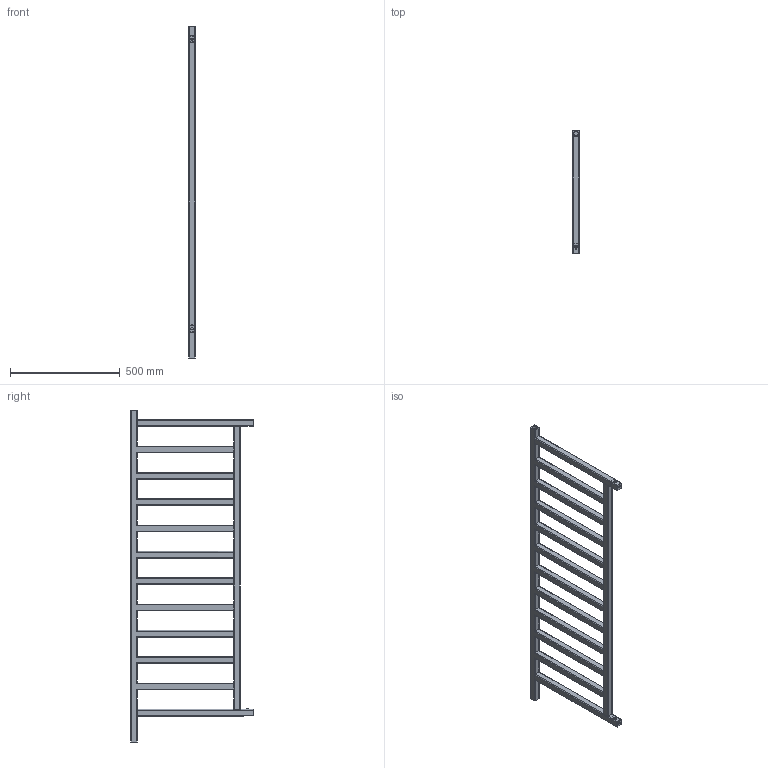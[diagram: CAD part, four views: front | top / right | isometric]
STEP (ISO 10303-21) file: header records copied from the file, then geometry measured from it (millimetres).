
FILE_DESCRIPTION((''),'2;1');
FILE_NAME('Z:\R\G\P\RGP035 - Grzejnik Simple\Work\Inventor\Marketing\AutoCad 3D\SIM-SD-1440-500-15.stp','2012-07-12T14:53:26',('KurKa'),(''),'Autodesk Inventor 2012','Autodesk Inventor 2012','');
FILE_SCHEMA(('AUTOMOTIVE_DESIGN { 1 0 10303 214 1 1 1 1 }'));
Length unit declared in the file: millimetre
Products named in the file (3): SIM-SD-1440-500-15; konsola MMT-SD-30x30x1,5-00 v1
Assembly tree (3 placements, depth 2):
  SIM-SD-1440-500-15
    SIM-SD-1440-500-15
    konsola MMT-SD-30x30x1,5-00 v1  x2
Bounding box: 30 x 560 x 1513.5 mm (x, y, z)
Volume: 7342151.6 mm3; surface area: 953557.9 mm2
Topology: 5 solids, 5 shells, 266 faces, 648 edges, 378 vertices
Faces by surface type: plane 144, cylinder 112, bspline 4, torus 4, cone 2
Full cylindrical faces by diameter (mm): 4 x2, 4.134 x2, 10 x2, 18.631 x2
Entity records: 6988 total; most frequent: CARTESIAN_POINT 1344, DIRECTION 1210, ORIENTED_EDGE 1130, EDGE_CURVE 565, AXIS2_PLACEMENT_3D 413, VECTOR 384, LINE 384, VERTEX_POINT 327
